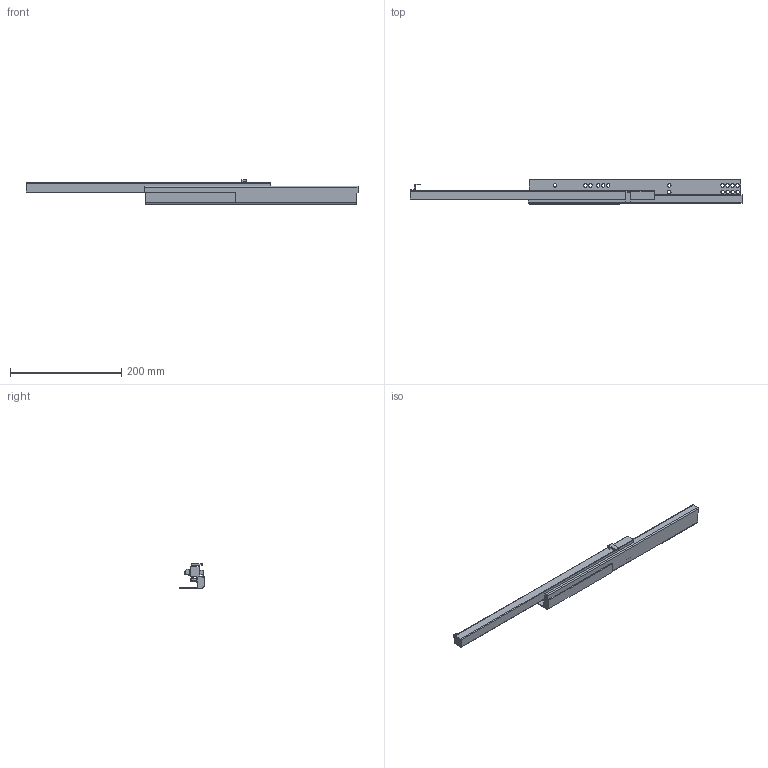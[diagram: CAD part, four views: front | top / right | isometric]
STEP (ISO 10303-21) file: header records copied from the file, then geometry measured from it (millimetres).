
FILE_DESCRIPTION (( 'STEP AP203' ), '1' );
FILE_NAME ('GG10600H-R-DTC3D-close.STEP', '2021-07-02T01:11:00', ( 'df' ), ( 'Microsoft' ), 'SwSTEP 2.0', 'SolidWorks 2018', '' );
FILE_SCHEMA (( 'CONFIG_CONTROL_DESIGN' ));
Length unit declared in the file: millimetre
Products named in the file (1): GG10600H-R-DTC3D-close
Bounding box: 598 x 44.1 x 44.73 mm (x, y, z)
Volume: 236605.1 mm3; surface area: 89925.7 mm2
Topology: 1 solids, 1 shells, 176 faces, 495 edges, 321 vertices
Faces by surface type: cylinder 92, plane 76, bspline 4, sphere 2, cone 2
Entity records: 5937 total; most frequent: CARTESIAN_POINT 1168, ORIENTED_EDGE 986, DIRECTION 983, EDGE_CURVE 493, AXIS2_PLACEMENT_3D 347, VERTEX_POINT 321, VECTOR 289, LINE 289
